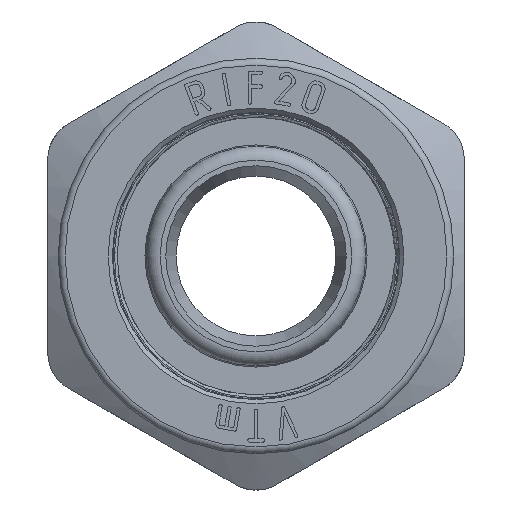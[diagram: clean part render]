
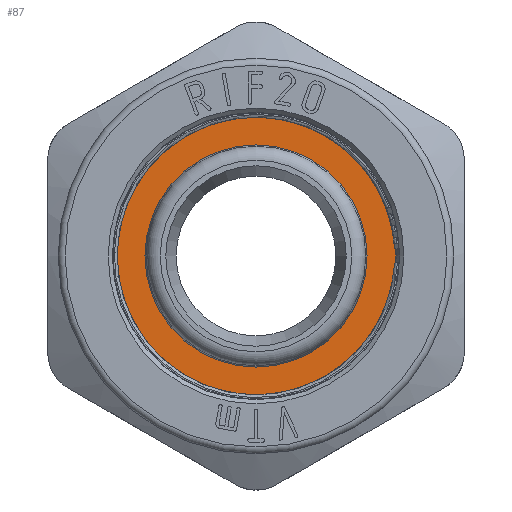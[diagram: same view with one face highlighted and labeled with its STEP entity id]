
A CAD part, front view. The second image highlights one B-rep face of the part: STEP entity #87.
In plain terms, the highlighted planar face has unit normal (0, -1, 0).
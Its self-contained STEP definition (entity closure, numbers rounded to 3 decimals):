
#87=ADVANCED_FACE('',(#914,#916),#918,.T.);
#914=FACE_BOUND('',#915,.T.);
#915=EDGE_LOOP('',(#4878));
#916=FACE_BOUND('',#917,.T.);
#917=EDGE_LOOP('',(#4879));
#918=PLANE('',#919);
#919=AXIS2_PLACEMENT_3D('',#920,#921,#922);
#920=CARTESIAN_POINT('',(0.,-8.8,0.));
#921=DIRECTION('',(0.,-1.,0.));
#922=DIRECTION('',(1.,0.,0.));
#4878=ORIENTED_EDGE('',*,*,#8330,.T.);
#4879=ORIENTED_EDGE('',*,*,#8329,.T.);
#8329=EDGE_CURVE('',#9848,#9848,#9849,.F.);
#8330=EDGE_CURVE('',#9850,#9850,#9851,.T.);
#9848=VERTEX_POINT('',#12496);
#9849=CIRCLE('',#12497,7.95);
#9850=VERTEX_POINT('',#12501);
#9851=CIRCLE('',#12502,10.05);
#12496=CARTESIAN_POINT('',(7.95,-8.8,0.));
#12497=AXIS2_PLACEMENT_3D('',#12498,#12499,#12500);
#12498=CARTESIAN_POINT('',(0.,-8.8,0.));
#12499=DIRECTION('',(0.,-1.,0.));
#12500=DIRECTION('',(1.,0.,0.));
#12501=CARTESIAN_POINT('',(10.05,-8.8,0.));
#12502=AXIS2_PLACEMENT_3D('',#12503,#12504,#12505);
#12503=CARTESIAN_POINT('',(0.,-8.8,0.));
#12504=DIRECTION('',(0.,-1.,0.));
#12505=DIRECTION('',(1.,0.,0.));
